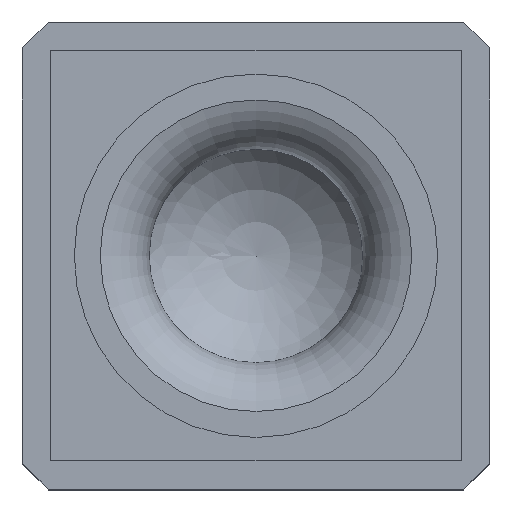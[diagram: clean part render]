
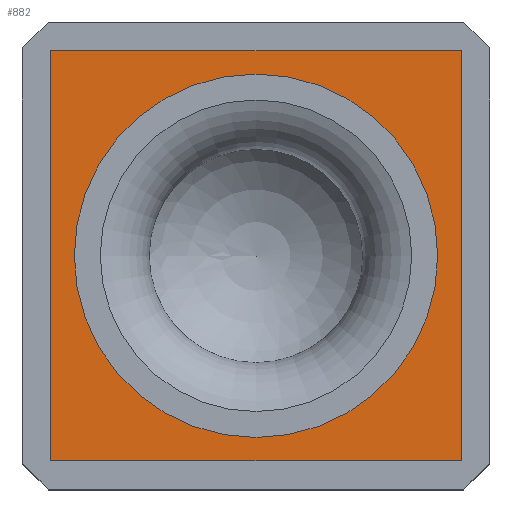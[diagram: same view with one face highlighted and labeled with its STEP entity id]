
A CAD part, top view. The second image highlights one B-rep face of the part: STEP entity #882.
In plain terms, the highlighted planar face has unit normal (0, 0, 1).
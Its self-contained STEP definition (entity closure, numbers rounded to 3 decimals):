
#18=CIRCLE('',#948,7.);
#33=FACE_BOUND('',#142,.T.);
#81=FACE_OUTER_BOUND('',#141,.T.);
#141=EDGE_LOOP('',(#766,#767,#768,#769));
#142=EDGE_LOOP('',(#770));
#150=LINE('',#1191,#259);
#154=LINE('',#1198,#263);
#157=LINE('',#1204,#266);
#159=LINE('',#1207,#268);
#259=VECTOR('',#964,10.);
#263=VECTOR('',#970,10.);
#266=VECTOR('',#975,10.);
#268=VECTOR('',#979,10.);
#368=VERTEX_POINT('',#1188);
#369=VERTEX_POINT('',#1190);
#371=VERTEX_POINT('',#1196);
#373=VERTEX_POINT('',#1202);
#439=VERTEX_POINT('',#1412);
#445=EDGE_CURVE('',#368,#369,#150,.T.);
#449=EDGE_CURVE('',#371,#368,#154,.T.);
#452=EDGE_CURVE('',#373,#371,#157,.T.);
#454=EDGE_CURVE('',#369,#373,#159,.T.);
#553=EDGE_CURVE('',#439,#439,#18,.T.);
#766=ORIENTED_EDGE('',*,*,#454,.F.);
#767=ORIENTED_EDGE('',*,*,#445,.F.);
#768=ORIENTED_EDGE('',*,*,#449,.F.);
#769=ORIENTED_EDGE('',*,*,#452,.F.);
#770=ORIENTED_EDGE('',*,*,#553,.F.);
#833=PLANE('',#949);
#882=ADVANCED_FACE('',(#81,#33),#833,.T.);
#948=AXIS2_PLACEMENT_3D('',#1414,#1163,#1164);
#949=AXIS2_PLACEMENT_3D('',#1415,#1165,#1166);
#964=DIRECTION('',(0.,-1.,0.));
#970=DIRECTION('',(1.,0.,0.));
#975=DIRECTION('',(0.,1.,0.));
#979=DIRECTION('',(-1.,0.,0.));
#1163=DIRECTION('center_axis',(0.,0.,1.));
#1164=DIRECTION('ref_axis',(-1.,0.,0.));
#1165=DIRECTION('center_axis',(0.,0.,1.));
#1166=DIRECTION('ref_axis',(-1.,0.,0.));
#1188=CARTESIAN_POINT('',(7.9,7.9,13.5));
#1190=CARTESIAN_POINT('',(7.9,-7.9,13.5));
#1191=CARTESIAN_POINT('',(7.9,7.9,13.5));
#1196=CARTESIAN_POINT('',(-7.9,7.9,13.5));
#1198=CARTESIAN_POINT('',(-7.9,7.9,13.5));
#1202=CARTESIAN_POINT('',(-7.9,-7.9,13.5));
#1204=CARTESIAN_POINT('',(-7.9,-7.9,13.5));
#1207=CARTESIAN_POINT('',(7.9,-7.9,13.5));
#1412=CARTESIAN_POINT('',(7.,0.,13.5));
#1414=CARTESIAN_POINT('Origin',(0.,0.,13.5));
#1415=CARTESIAN_POINT('Origin',(-3.5,3.5,13.5));
